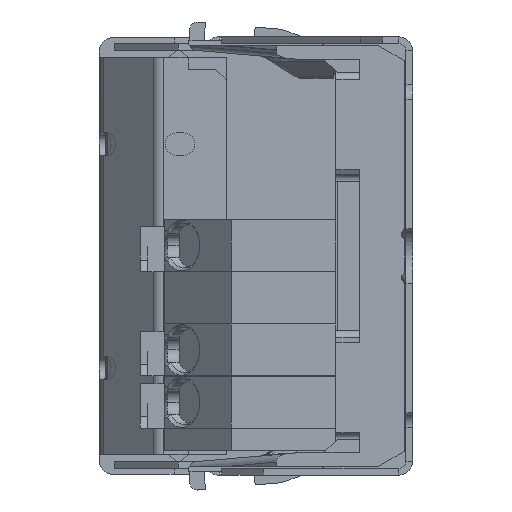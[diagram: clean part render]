
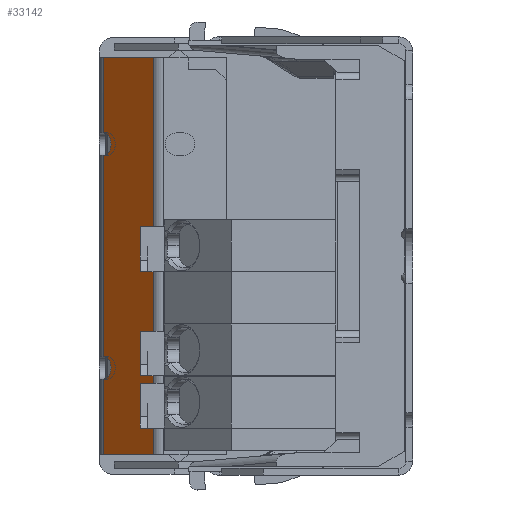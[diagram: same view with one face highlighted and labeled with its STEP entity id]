
A CAD part, left-side view. The second image highlights one B-rep face of the part: STEP entity #33142.
In plain terms, the highlighted planar face has unit normal (-0.707, 0.707, 0).
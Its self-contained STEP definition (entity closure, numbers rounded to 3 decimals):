
#585 = CARTESIAN_POINT ( 'NONE',  ( -110.324, 10.751, 7.5 ) ) ;
#832 = CIRCLE ( 'NONE', #22115, 0.75 ) ;
#866 = LINE ( 'NONE', #12294, #33201 ) ;
#936 = CARTESIAN_POINT ( 'NONE',  ( -110.342, 10.734, 13.3 ) ) ;
#1168 = CARTESIAN_POINT ( 'NONE',  ( -110.342, 10.734, 8.25 ) ) ;
#1342 = DIRECTION ( 'NONE',  ( -0.707, -0.707, 0. ) ) ;
#1582 = CARTESIAN_POINT ( 'NONE',  ( -110.342, 10.734, -6.75 ) ) ;
#2035 = EDGE_CURVE ( 'NONE', #18844, #30710, #832, .T. ) ;
#3497 = LINE ( 'NONE', #36112, #11840 ) ;
#3590 = ORIENTED_EDGE ( 'NONE', *, *, #16494, .T. ) ;
#3647 = CARTESIAN_POINT ( 'NONE',  ( 45.049, 166.124, 14.65 ) ) ;
#3735 = DIRECTION ( 'NONE',  ( 0., 0., 1. ) ) ;
#3769 = DIRECTION ( 'NONE',  ( 0., 0., -1. ) ) ;
#4371 = ORIENTED_EDGE ( 'NONE', *, *, #39002, .T. ) ;
#4589 = LINE ( 'NONE', #20234, #21259 ) ;
#4724 = FACE_OUTER_BOUND ( 'NONE', #9562, .T. ) ;
#5033 = CARTESIAN_POINT ( 'NONE',  ( -110.324, 10.751, -7.5 ) ) ;
#5959 = CARTESIAN_POINT ( 'NONE',  ( -110.342, 10.734, -13.3 ) ) ;
#6102 = CARTESIAN_POINT ( 'NONE',  ( -113.736, 7.34, 13.3 ) ) ;
#6838 = DIRECTION ( 'NONE',  ( 0., 0., 1. ) ) ;
#7872 = VERTEX_POINT ( 'NONE', #5959 ) ;
#8073 = ORIENTED_EDGE ( 'NONE', *, *, #29464, .T. ) ;
#9033 = CARTESIAN_POINT ( 'NONE',  ( -113.736, 7.34, -13.3 ) ) ;
#9371 = DIRECTION ( 'NONE',  ( 0., 0., -1. ) ) ;
#9562 = EDGE_LOOP ( 'NONE', ( #12520, #15485, #8073, #34967, #4371, #10263, #32711, #3590 ) ) ;
#9745 = VECTOR ( 'NONE', #34456, 1000. ) ;
#9827 = CARTESIAN_POINT ( 'NONE',  ( -113.736, 7.34, 14.65 ) ) ;
#10263 = ORIENTED_EDGE ( 'NONE', *, *, #2035, .F. ) ;
#11840 = VECTOR ( 'NONE', #23630, 1000. ) ;
#12131 = VECTOR ( 'NONE', #3769, 1000. ) ;
#12294 = CARTESIAN_POINT ( 'NONE',  ( -110.342, 10.734, 14.65 ) ) ;
#12520 = ORIENTED_EDGE ( 'NONE', *, *, #31938, .F. ) ;
#15485 = ORIENTED_EDGE ( 'NONE', *, *, #40213, .F. ) ;
#16494 = EDGE_CURVE ( 'NONE', #7872, #17406, #4589, .T. ) ;
#16597 = CARTESIAN_POINT ( 'NONE',  ( -110.342, 10.734, 6.75 ) ) ;
#17406 = VERTEX_POINT ( 'NONE', #9033 ) ;
#18844 = VERTEX_POINT ( 'NONE', #20773 ) ;
#19385 = VECTOR ( 'NONE', #32240, 1000. ) ;
#19392 = CARTESIAN_POINT ( 'NONE',  ( -110.342, 10.734, 14.65 ) ) ;
#20234 = CARTESIAN_POINT ( 'NONE',  ( -109.808, 11.268, -13.3 ) ) ;
#20773 = CARTESIAN_POINT ( 'NONE',  ( -110.342, 10.734, -8.25 ) ) ;
#21259 = VECTOR ( 'NONE', #1342, 1000. ) ;
#22115 = AXIS2_PLACEMENT_3D ( 'NONE', #5033, #34402, #9371 ) ;
#22297 = CIRCLE ( 'NONE', #32475, 0.75 ) ;
#22498 = DIRECTION ( 'NONE',  ( -0.707, 0.707, 0. ) ) ;
#23630 = DIRECTION ( 'NONE',  ( -0.707, -0.707, 0. ) ) ;
#24370 = VERTEX_POINT ( 'NONE', #1168 ) ;
#25417 = PLANE ( 'NONE',  #29574 ) ;
#25553 = DIRECTION ( 'NONE',  ( -0.707, 0.707, 0. ) ) ;
#26612 = VERTEX_POINT ( 'NONE', #936 ) ;
#27867 = DIRECTION ( 'NONE',  ( 0., 0., -1. ) ) ;
#29106 = CARTESIAN_POINT ( 'NONE',  ( -110.342, 10.734, 14.65 ) ) ;
#29279 = EDGE_CURVE ( 'NONE', #18844, #7872, #866, .T. ) ;
#29464 = EDGE_CURVE ( 'NONE', #26612, #24370, #36113, .T. ) ;
#29574 = AXIS2_PLACEMENT_3D ( 'NONE', #3647, #25553, #6838 ) ;
#30710 = VERTEX_POINT ( 'NONE', #1582 ) ;
#31938 = EDGE_CURVE ( 'NONE', #37219, #17406, #33693, .T. ) ;
#32045 = VERTEX_POINT ( 'NONE', #16597 ) ;
#32240 = DIRECTION ( 'NONE',  ( 0., 0., -1. ) ) ;
#32475 = AXIS2_PLACEMENT_3D ( 'NONE', #585, #22498, #3735 ) ;
#32711 = ORIENTED_EDGE ( 'NONE', *, *, #29279, .T. ) ;
#33142 = ADVANCED_FACE ( 'NONE', ( #4724 ), #25417, .T. ) ;
#33201 = VECTOR ( 'NONE', #27867, 1000. ) ;
#33693 = LINE ( 'NONE', #9827, #9745 ) ;
#34402 = DIRECTION ( 'NONE',  ( -0.707, 0.707, 0. ) ) ;
#34456 = DIRECTION ( 'NONE',  ( 0., 0., -1. ) ) ;
#34967 = ORIENTED_EDGE ( 'NONE', *, *, #39474, .F. ) ;
#36016 = LINE ( 'NONE', #29106, #19385 ) ;
#36112 = CARTESIAN_POINT ( 'NONE',  ( -109.808, 11.268, 13.3 ) ) ;
#36113 = LINE ( 'NONE', #19392, #12131 ) ;
#37219 = VERTEX_POINT ( 'NONE', #6102 ) ;
#39002 = EDGE_CURVE ( 'NONE', #32045, #30710, #36016, .T. ) ;
#39474 = EDGE_CURVE ( 'NONE', #32045, #24370, #22297, .T. ) ;
#40213 = EDGE_CURVE ( 'NONE', #26612, #37219, #3497, .T. ) ;
